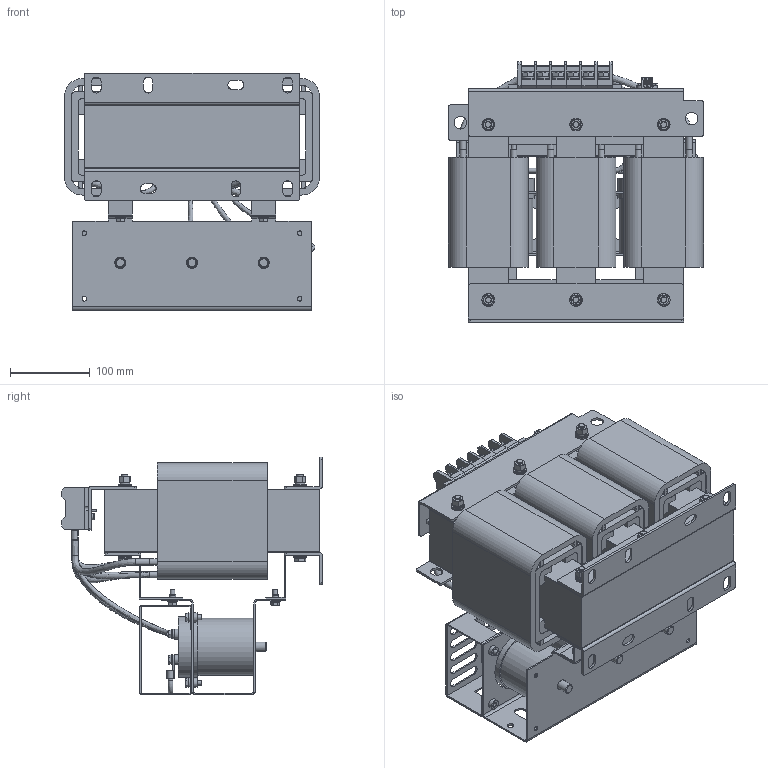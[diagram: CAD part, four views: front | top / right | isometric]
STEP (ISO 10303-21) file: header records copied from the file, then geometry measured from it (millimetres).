
FILE_DESCRIPTION(('STEP AP203'), '1');
FILE_NAME('蔓躅漤铋 耔眢耥 翳朦蝠 _ ISINOF-37_45-6', '', ('UNSPECIFIED'), ('UNSPECIFIED'), 'C3D Converter', 'C3D Toolkit', '');
FILE_SCHEMA(('CONFIG_CONTROL_DESIGN'));
Length unit declared in the file: millimetre
Products named in the file (58): ISINOF-37/45-6; DW16-06-02跚X2\041B04270423\X0\; LРНіЕМх8x8x138; LРНЦ吭X2\04560415\X0\; RNB14-6S; 吒X2\0425\X0\72-95; Ч豹X2\04150434041C0435\X0\40^ХэПТІЁВЛІЁЖчSKS-SF-0045-6AЈЇ05; ёЗЧУ; №么X2\04270426041C0445\X0\8x6x138mm; ї琵X2\041E\X0\做зЧУKV223-2P; А降еМх270-50-1; БщЅЗВЭЛЁM8; ИэПаМъРѕ270-270-78ЈЁ50-110; ЙПјРјю50-110; ЙПјРјю50-110\X2\040Ô0448\X0\¶ЛЧУЦ§іЕ; ПВјРјю50-110; ПЯИ¦45A; plain washers--product grade c gb_GB_FASTENER_WASHER_SMWC 8; spring lock washers--normal type gb_GB_FASTENER_WASHER_SW 8; hexagon nuts grade c gb_GB_FASTENER_NUT_SNC1 M8-N; 琵X2\04370418042D0458042C\X0\ ; LРНЦ吭X2\04560415\X0\1; plain washers--product grade c gb_GB_FASTENER_WASHER_SMWC 6; hexagon head bolts-full thread gb_GB_FASTENER_BOLT_STBAB A M6X16-N; Harness_1-gb_assembly-001; 琵X2\043704100412\X0\^Harness_1-gb_assembly-001; Harness_2-gb_assembly-003; 琵X2\043704100412\X0\^Harness_2-gb_assembly-003; Harness_3-gb_assembly-001; 琵X2\043704100412\X0\^Harness_3-gb_assembly-001; Harness_4-gb_assembly-001; 琵X2\043704100412\X0\^Harness_4-gb_assembly-001; Harness_5-gb_assembly-001; 琵X2\043704100412\X0\^Harness_5-gb_assembly-001; Harness_6-gb_assembly-001; 琵X2\043704100412\X0\^Harness_6-gb_assembly-001; Harness_7-gb_assembly-001; 琵X2\043704100412\X0\^Harness_7-gb_assembly-001; Harness_8-gb_assembly-001; 琵X2\043704100412\X0\^Harness_8-gb_assembly-001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
Assembly tree (165 placements, depth 3):
  ISINOF-37/45-6
    DW16-06-02跚X2\041B04270423\X0\
    LРНіЕМх8x8x138  x12
    LРНЦ吭X2\04560415\X0\  x2
    RNB14-6S  x12
    吒X2\0425\X0\72-95  x3
    Ч豹X2\04150434041C0435\X0\40^ХэПТІЁВЛІЁЖчSKS-SF-0045-6AЈЇ05
      ёЗЧУ
    №么X2\04270426041C0445\X0\8x6x138mm  x12
    ї琵X2\041E\X0\做зЧУKV223-2P
    А降еМх270-50-1  x6
    БщЅЗВЭЛЁM8  x6
    ИэПаМъРѕ270-270-78ЈЁ50-110
    ЙПјРјю50-110
    ЙПјРјю50-110\X2\040Ô0448\X0\¶ЛЧУЦ§іЕ
    ПВјРјю50-110  x2
    ПЯИ¦45A  x3
    plain washers--product grade c gb_GB_FASTENER_WASHER_SMWC 8  x24
    spring lock washers--normal type gb_GB_FASTENER_WASHER_SW 8  x6
    hexagon nuts grade c gb_GB_FASTENER_NUT_SNC1 M8-N  x6
    琵X2\04370418042D0458042C\X0\ 
    LРНЦ吭X2\04560415\X0\1  x2
    plain washers--product grade c gb_GB_FASTENER_WASHER_SMWC 6  x14
    hexagon head bolts-full thread gb_GB_FASTENER_BOLT_STBAB A M6X16-N  x13
    Harness_1-gb_assembly-001
      琵X2\043704100412\X0\^Harness_1-gb_assembly-001
    Harness_2-gb_assembly-003
      琵X2\043704100412\X0\^Harness_2-gb_assembly-003
    Harness_3-gb_assembly-001
      琵X2\043704100412\X0\^Harness_3-gb_assembly-001
    Harness_4-gb_assembly-001
      琵X2\043704100412\X0\^Harness_4-gb_assembly-001
    Harness_5-gb_assembly-001
      琵X2\043704100412\X0\^Harness_5-gb_assembly-001
    Harness_6-gb_assembly-001
      琵X2\043704100412\X0\^Harness_6-gb_assembly-001
    Harness_7-gb_assembly-001
      琵X2\043704100412\X0\^Harness_7-gb_assembly-001
    Harness_8-gb_assembly-001
      琵X2\043704100412\X0\^Harness_8-gb_assembly-001
    Harness_9-gb_assembly-001
      琵X2\043704100412\X0\^Harness_9-gb_assembly-001
    Harness_10-gb_assembly-001
      琵X2\043704100412\X0\^Harness_10-gb_assembly-001
    Harness_11-gb_assembly-001
      琵X2\043704100412\X0\^Harness_11-gb_assembly-001
    Cable_12-gb_assembly-002
      琵X2\043704100412\X0\^Cable_12-gb_assembly-002
    Harness_12-gb_assembly-001
      琵X2\043704100412\X0\^Harness_12-gb_assembly-001
    Harness_13-gb_assembly-001
      琵X2\043704100412\X0\^Harness_13-gb_assembly-001
    Harness_14-gb_assembly-001
      琵X2\043704100412\X0\^Harness_14-gb_assembly-001
    Harness_15-gb_assembly-001
      琵X2\043704100412\X0\^Harness_15-gb_assembly-001
    琵X2\0428\X0\崤X2\043A\X0\
    МщЦЅ
Bounding box: 320 x 327 x 298.28 mm (x, y, z)
Volume: 9332303.6 mm3; surface area: 2058013.7 mm2
Topology: 214 solids, 214 shells, 2923 faces, 6946 edges, 4550 vertices
Faces by surface type: plane 1955, cylinder 723, cone 201, bspline 38, torus 6
Full cylindrical faces by diameter (mm): 3 x2, 3.8 x2, 4 x4, 6 x58, 6.2 x12, 6.4 x12, 6.6 x14, 6.647 x6, 8 x28, 8.68 x6, 9 x24, 11 x30, 12 x21, 12.5 x6, 12.88 x6, 14 x3, 16 x38, 18.2 x1, 19 x1, 20 x1, 72 x6, 76 x3, 80 x3
Entity records: 77669 total; most frequent: CARTESIAN_POINT 19088, DIRECTION 8116, ORIENTED_EDGE 7876, EDGE_CURVE 3938, LINE 2950, VECTOR 2950, VERTEX_POINT 2714, AXIS2_PLACEMENT_3D 2583
